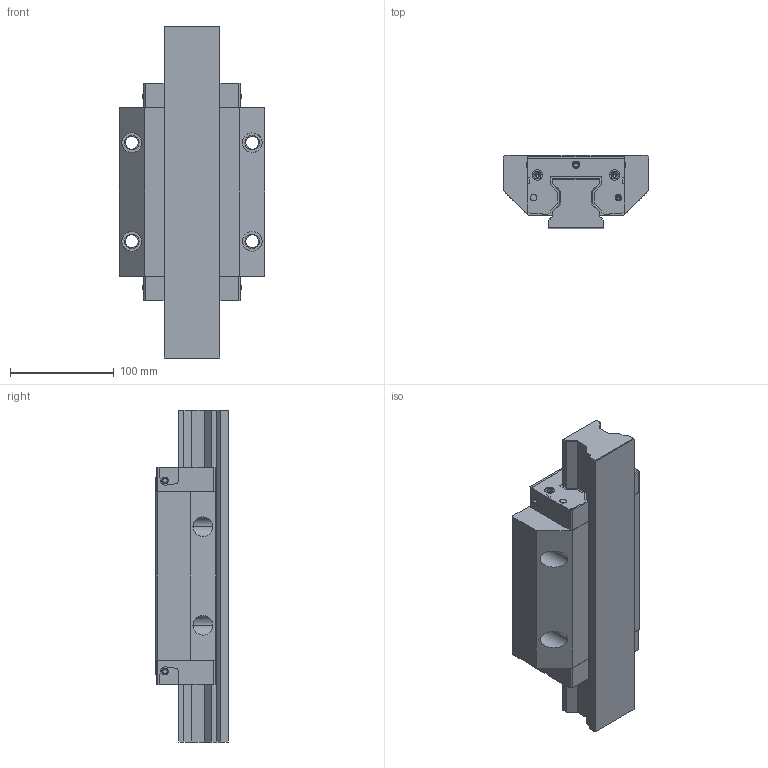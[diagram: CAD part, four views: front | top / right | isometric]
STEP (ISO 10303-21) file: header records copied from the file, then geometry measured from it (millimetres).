
FILE_DESCRIPTION((''),'2;1');
FILE_NAME('R1853_SIZE55_ASM','2021-07-06T07:52:32',('ac91sw'),(''),'CREO PARAMETRIC BY PTC INC, 2020044','CREO PARAMETRIC BY PTC INC, 2020044','');
FILE_SCHEMA(('AUTOMOTIVE_DESIGN { 1 0 10303 214 1 1 1 1 }'));
Length unit declared in the file: millimetre
Products named in the file (6): R1853_SIZE55_SKEL; R185352501; R185150702_Z; R913034226_Z; R1853_SIZE55_PSF; R1853_SIZE55_ASM
Assembly tree (11 placements, depth 2):
  R1853_SIZE55_ASM
    R1853_SIZE55_SKEL
    R185352501
    R185150702_Z  x2
    R913034226_Z  x6
    R1853_SIZE55_PSF
Bounding box: 140 x 70 x 319.65 mm (x, y, z)
Volume: 1619328.7 mm3; surface area: 236745.8 mm2
Topology: 10 solids, 26 shells, 544 faces, 1390 edges, 888 vertices
Faces by surface type: plane 338, cylinder 142, cone 64
Entity records: 15797 total; most frequent: CARTESIAN_POINT 1967, DIRECTION 1618, ORIENTED_EDGE 1536, EDGE_CURVE 786, PROPERTY_DEFINITION 699, REPRESENTATION 692, PROPERTY_DEFINITION_REPRESENTATION 692, DESCRIPTIVE_REPRESENTATION_ITEM 643
